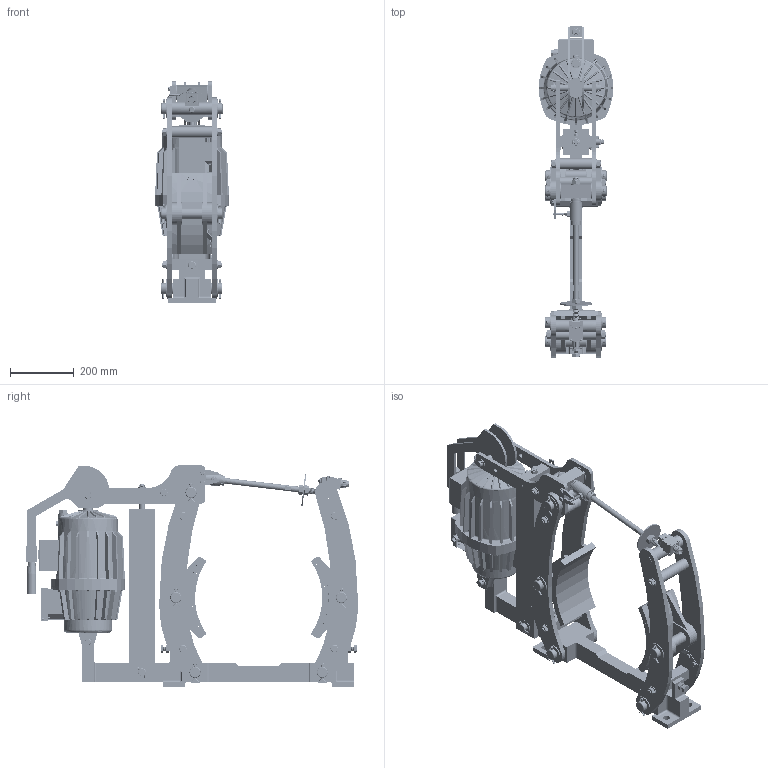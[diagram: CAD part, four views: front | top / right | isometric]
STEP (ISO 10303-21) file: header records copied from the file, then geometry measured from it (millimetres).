
FILE_DESCRIPTION((''),'2;1');
FILE_NAME('4459-404_553_E00002','2018-01-30T',('VORO'),(''),'CREO PARAMETRIC BY PTC INC, 2017170','CREO PARAMETRIC BY PTC INC, 2017170','');
FILE_SCHEMA(('CONFIG_CONTROL_DESIGN'));
Products named in the file (1): 4459-404_553_E00002
Bounding box: 234 x 1043.04 x 695.5 mm (x, y, z)
Surface area: 3273517.1 mm2 (no closed solid volume)
Topology: 0 solids, 3314 shells, 3932 faces, 25274 edges, 23991 vertices
Faces by surface type: plane 1600, cylinder 1376, cone 717, torus 217, bspline 18, sphere 4
Entity records: 435659 total; most frequent: CARTESIAN_POINT 143437, PRESENTATION_STYLE_ASSIGNMENT 32506, STYLED_ITEM 28574, DIRECTION 26951, ORIENTED_EDGE 26544, CURVE_STYLE 25262, EDGE_CURVE 25262, VERTEX_POINT 23991
